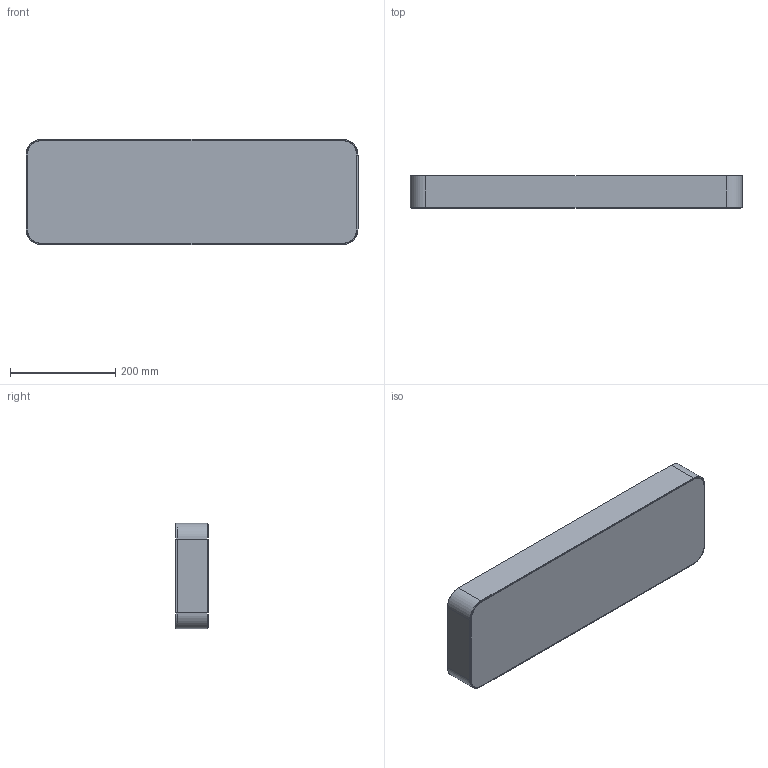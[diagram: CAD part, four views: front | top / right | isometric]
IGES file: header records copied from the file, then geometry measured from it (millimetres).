
Start section: SolidWorks IGES file using analytic representation for surfaces
Global section: file name: Z:\Modele 3D_WWW\_KOLEKCJE_WWW\SOFT-LED\SOFT-LED-60X20-9534-9532\SOFT-LED-60X20-9534-9532.IGS; native system: SolidWorks 2020; preprocessor: SolidWorks 2020; author: gabriela.tworek; date: 210419.125858; units: millimetre
Bounding box: 630 x 61.5 x 200 mm (x, y, z)
Surface area: 704202.2 mm2 (no closed solid volume)
Topology: 0 solids, 0 shells, 47 faces, 520 edges, 520 vertices
Faces by surface type: bspline 27, revolution 20
